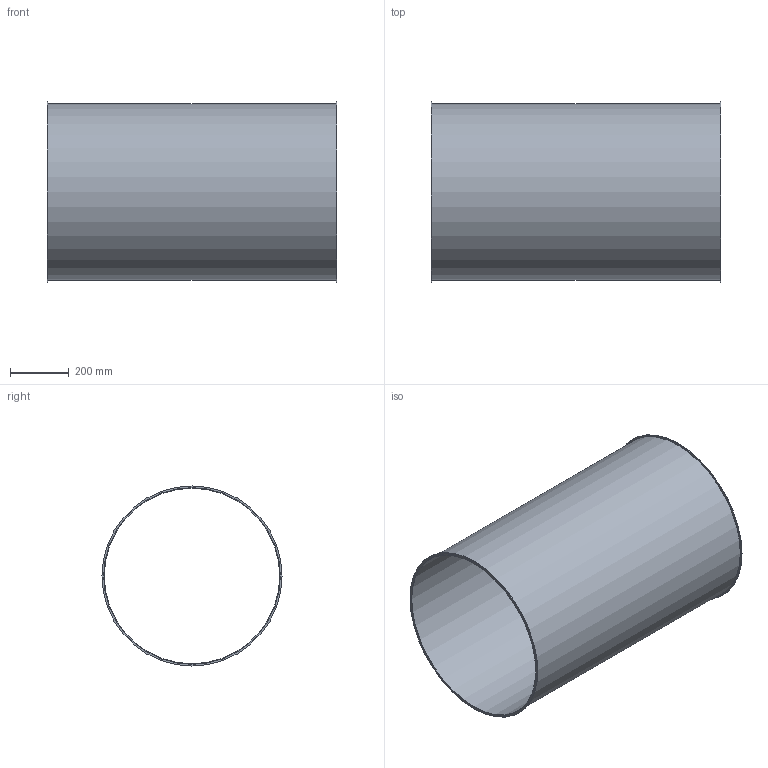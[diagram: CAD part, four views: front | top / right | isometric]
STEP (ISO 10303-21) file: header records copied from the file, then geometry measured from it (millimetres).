
FILE_DESCRIPTION((''),'2;1');
FILE_NAME('U:\Wolfgang\Marcel-3D\fertig\Kapitel 1\6021002.stp','2010-05-31T12:40:54',('TK2'),(''),'Autodesk Inventor 2010','Autodesk Inventor 2010','');
FILE_SCHEMA(('AUTOMOTIVE_DESIGN { 1 0 10303 214 1 1 1 1 }'));
Length unit declared in the file: millimetre
Products named in the file (1): 6021002
Bounding box: 986 x 614 x 614 mm (x, y, z)
Volume: 3762974.5 mm3; surface area: 3770665.2 mm2
Topology: 1 solids, 1 shells, 8 faces, 12 edges, 8 vertices
Faces by surface type: cylinder 4, plane 4
Full cylindrical faces by diameter (mm): 598 x1, 602 x1, 614 x2
Entity records: 194 total; most frequent: DIRECTION 34, CARTESIAN_POINT 25, AXIS2_PLACEMENT_3D 17, ORIENTED_EDGE 16, EDGE_LOOP 16, VERTEX_POINT 8, CIRCLE 8, EDGE_CURVE 8
